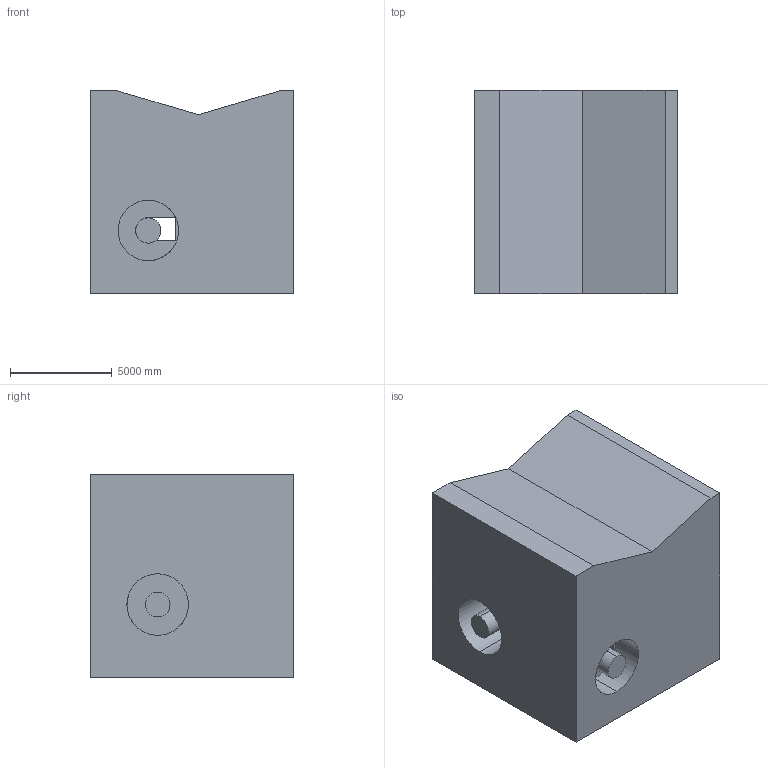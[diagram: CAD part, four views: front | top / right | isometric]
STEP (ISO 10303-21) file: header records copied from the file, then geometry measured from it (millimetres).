
FILE_DESCRIPTION (( 'STEP AP203' ), '1' );
FILE_NAME ('1373.STEP', '2022-08-18T14:06:28', ( 'user' ), ( '' ), 'SwSTEP 2.0', 'SolidWorks 2021', '' );
FILE_SCHEMA (( 'CONFIG_CONTROL_DESIGN' ));
Length unit declared in the file: centimetre
Products named in the file (1): 1373
Bounding box: 10000 x 10000 x 10000 mm (x, y, z)
Volume: 904187166792.2 mm3; surface area: 698506209.3 mm2
Topology: 1 solids, 1 shells, 33 faces, 85 edges, 56 vertices
Faces by surface type: plane 25, cylinder 8
Entity records: 1095 total; most frequent: DIRECTION 180, CARTESIAN_POINT 175, ORIENTED_EDGE 170, EDGE_CURVE 85, AXIS2_PLACEMENT_3D 61, LINE 58, VECTOR 58, VERTEX_POINT 56
